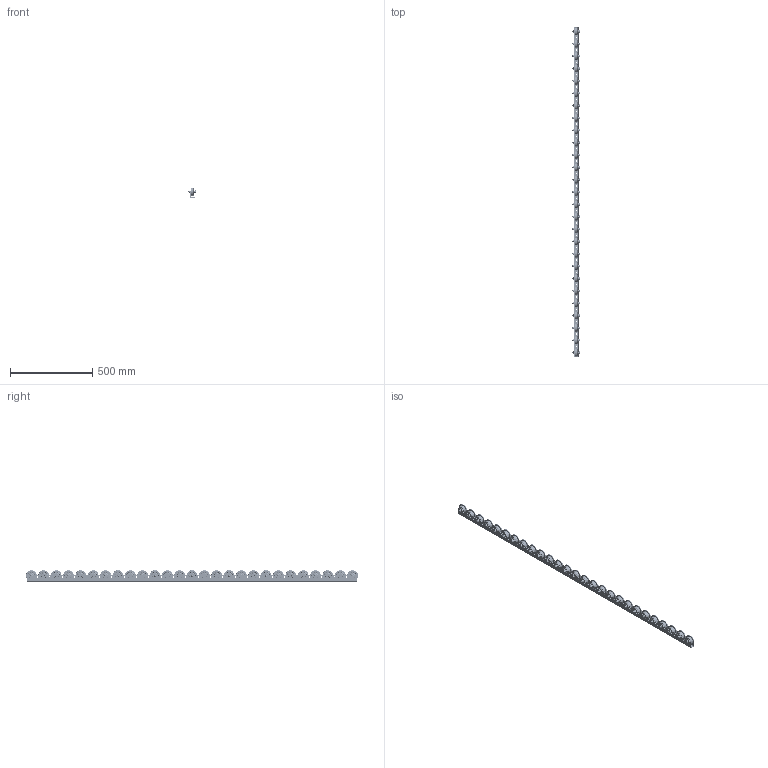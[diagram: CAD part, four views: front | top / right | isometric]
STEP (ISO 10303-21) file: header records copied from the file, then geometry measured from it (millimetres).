
FILE_DESCRIPTION( ( 'Unknown' ), '1' );
FILE_NAME( 'D:/Construktor/Listwy rolkowe 2015/Listwa T620K/Listwa T620K.stp', 'Unknown', ( 'Unknown' ), ( 'Unknown' ), 'PSStep 17.0.49', 'Unknown', ' ' );
FILE_SCHEMA( ( 'AUTOMOTIVE_DESIGN { 1 0 10303 214 1 1 1 1 }' ) );
Length unit declared in the file: millimetre
Products named in the file (9): Assem1; DIN_931_M8x35; DIN_931_M8x35-oa0; DIN_931_M8x35-oa1; Nut_DIN_980_M_M8_v10.50; 620K rolka; 620K rolka-oa2; 620K rolka-oa3; Ceownik T620K
Assembly tree (82 placements, depth 2):
  Assem1
    DIN_931_M8x35  x25
    DIN_931_M8x35-oa0
    DIN_931_M8x35-oa1
    Nut_DIN_980_M_M8_v10.50  x27
    620K rolka  x25
    620K rolka-oa2
    620K rolka-oa3
    Ceownik T620K
Bounding box: 45.3 x 2016 x 70 mm (x, y, z)
Volume: 1327932 mm3; surface area: 838530.1 mm2
Topology: 82 solids, 82 shells, 2518 faces, 5657 edges, 3654 vertices
Faces by surface type: cylinder 861, plane 847, torus 405, cone 405
Full cylindrical faces by diameter (mm): 6.466 x27, 6.647 x27, 6.697 x27, 8 x54, 8.2 x398, 8.3 x27, 8.4 x27, 11.63 x27, 12.5 x27, 12.6 x54, 29.5 x54, 43.6 x54, 48 x27, 66 x27
Entity records: 23826 total; most frequent: DIRECTION 3342, CARTESIAN_POINT 3157, ORIENTED_EDGE 2174, EDGE_LOOP 1920, AXIS2_PLACEMENT_3D 1636, EDGE_CURVE 1087, FACE_OUTER_BOUND 1076, VERTEX_POINT 1027
